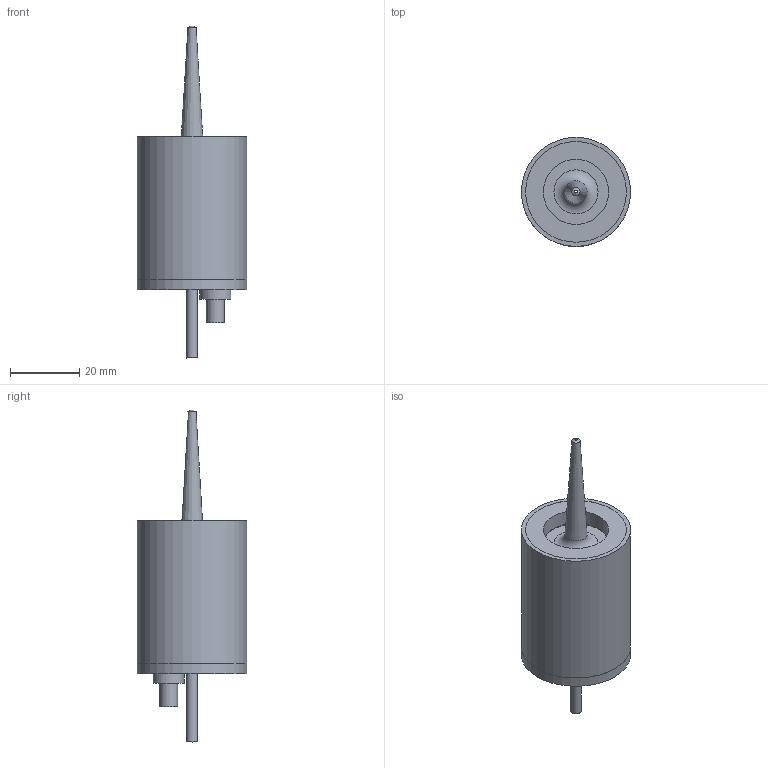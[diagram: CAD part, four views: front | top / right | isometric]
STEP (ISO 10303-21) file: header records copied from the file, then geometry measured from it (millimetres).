
FILE_DESCRIPTION((''),'2;1');
FILE_NAME('Y:\Desktop\AutoDesk\Atomizer Nozzles\LF48KT\LF48KT Atomizer Nozzle 120 Deg Tip.stp','2019-12-02T15:45:19',('Owner'),(''),'Autodesk Inventor 2013','Autodesk Inventor 2013','');
FILE_SCHEMA(('AUTOMOTIVE_DESIGN { 1 0 10303 214 1 1 1 1 }'));
Length unit declared in the file: inch
Products named in the file (16): LF48KT Atomizer Nozzle 120 Deg Tip; SON01371 LF48kHz Front Driver 120 deg Tip; AS568A-003; SON01319 40kHz Bolt; Electrode; Crystal; SON01320 40kHz Rear Driver; SON00924A  Probe Isolator; AS568A-022; SON00922C Probe Case; SON00923C CASE RING; SON00927E Atomizer Rear Cover; 1-64 screw; AS568A-009; electrical connector; SON00928C Atomizer Tube
Assembly tree (21 placements, depth 2):
  LF48KT Atomizer Nozzle 120 Deg Tip
    SON01371 LF48kHz Front Driver 120 deg Tip
    AS568A-003
    SON01319 40kHz Bolt
    Electrode  x2
    Crystal  x2
    SON01320 40kHz Rear Driver
    SON00924A  Probe Isolator
    AS568A-022  x2
    SON00922C Probe Case
    SON00923C CASE RING
    SON00927E Atomizer Rear Cover
    1-64 screw  x4
    AS568A-009
    electrical connector
    SON00928C Atomizer Tube
Bounding box: 31.5 x 31.5 x 95.78 mm (x, y, z)
Volume: 23543.1 mm3; surface area: 21896.1 mm2
Topology: 21 solids, 21 shells, 206 faces, 401 edges, 261 vertices
Faces by surface type: plane 106, cylinder 75, torus 13, cone 12
Full cylindrical faces by diameter (mm): 0.762 x1, 0.889 x2, 1.016 x2, 1.854 x8, 1.93 x4, 2.057 x1, 2.083 x1, 2.362 x1, 2.946 x2, 2.997 x4, 3.048 x4, 3.175 x2, 4.572 x1, 4.623 x1, 4.763 x1, 5.182 x1, 5.588 x1, 6.35 x5, 7.62 x2, 7.747 x2, 8.731 x1, 8.992 x1, 18.796 x1, 19.05 x5, 20.574 x1, 21.463 x1, 21.59 x1, 25.4 x3, 27.94 x1, 29.083 x2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
Entity records: 4022 total; most frequent: DIRECTION 718, CARTESIAN_POINT 564, ORIENTED_EDGE 410, AXIS2_PLACEMENT_3D 328, EDGE_LOOP 273, EDGE_CURVE 205, VERTEX_POINT 174, FACE_OUTER_BOUND 148
